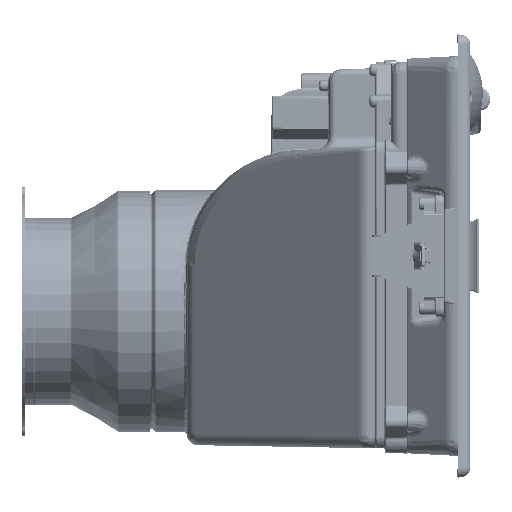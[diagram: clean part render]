
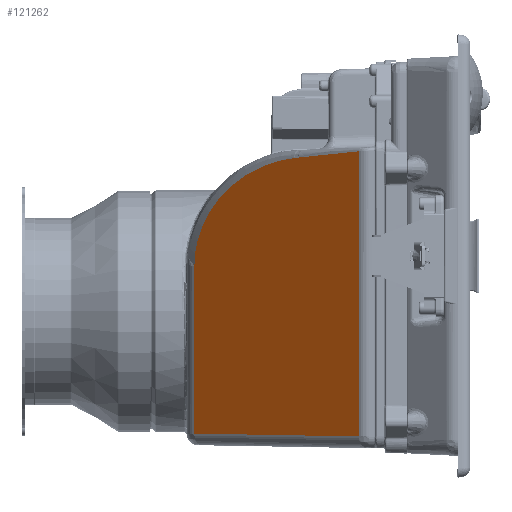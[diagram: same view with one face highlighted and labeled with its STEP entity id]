
A CAD part, left-side view. The second image highlights one B-rep face of the part: STEP entity #121262.
In plain terms, the highlighted planar face has unit normal (-0.737, 0.675, 0) as drawn and (-0.737, -0.676, 0) by its records, which use the part's own axes.
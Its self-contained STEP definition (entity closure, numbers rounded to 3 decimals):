
#68866=DIRECTION('',(0.,0.,-1.));
#68867=VECTOR('',#68866,107.211);
#68868=CARTESIAN_POINT('',(-114.459,-136.133,
113.711));
#68869=LINE('',#68868,#68867);
#68906=CARTESIAN_POINT('',(-114.459,-136.133,6.5));
#68907=CARTESIAN_POINT('',(-114.459,-136.133,
5.693));
#68908=CARTESIAN_POINT('',(-114.486,-136.103,
4.077));
#68909=CARTESIAN_POINT('',(-114.608,-135.97,
1.648));
#68910=CARTESIAN_POINT('',(-114.812,-135.747,
-0.789));
#68911=CARTESIAN_POINT('',(-115.102,-135.431,
-3.234));
#68912=CARTESIAN_POINT('',(-115.479,-135.02,
-5.69));
#68913=CARTESIAN_POINT('',(-115.945,-134.511,
-8.155));
#68914=CARTESIAN_POINT('',(-116.504,-133.9,
-10.632));
#68915=CARTESIAN_POINT('',(-117.16,-133.184,
-13.119));
#68916=CARTESIAN_POINT('',(-117.917,-132.358,
-15.618));
#68917=CARTESIAN_POINT('',(-118.778,-131.419,
-18.126));
#68918=CARTESIAN_POINT('',(-119.748,-130.359,
-20.642));
#68919=CARTESIAN_POINT('',(-120.833,-129.175,
-23.165));
#68920=CARTESIAN_POINT('',(-122.038,-127.86,
-25.69));
#68921=CARTESIAN_POINT('',(-123.368,-126.408,
-28.216));
#68922=CARTESIAN_POINT('',(-124.829,-124.813,
-30.737));
#68923=CARTESIAN_POINT('',(-126.427,-123.069,
-33.247));
#68924=CARTESIAN_POINT('',(-128.167,-121.17,
-35.741));
#68925=CARTESIAN_POINT('',(-130.055,-119.109,
-38.209));
#68926=CARTESIAN_POINT('',(-132.096,-116.881,
-40.642));
#68927=CARTESIAN_POINT('',(-134.296,-114.48,
-43.031));
#68928=CARTESIAN_POINT('',(-136.656,-111.903,
-45.362));
#68929=CARTESIAN_POINT('',(-139.181,-109.147,
-47.623));
#68930=CARTESIAN_POINT('',(-141.872,-106.209,
-49.799));
#68931=CARTESIAN_POINT('',(-144.729,-103.091,
-51.874));
#68932=CARTESIAN_POINT('',(-147.75,-99.794,
-53.83));
#68933=CARTESIAN_POINT('',(-150.931,-96.322,
-55.652));
#68934=CARTESIAN_POINT('',(-154.265,-92.682,
-57.318));
#68935=CARTESIAN_POINT('',(-157.744,-88.885,
-58.813));
#68936=CARTESIAN_POINT('',(-161.354,-84.944,
-60.116));
#68937=CARTESIAN_POINT('',(-165.086,-80.871,
-61.212));
#68938=CARTESIAN_POINT('',(-168.896,-76.712,
-62.078));
#68939=CARTESIAN_POINT('',(-171.467,-73.905,
-62.495));
#68940=CARTESIAN_POINT('',(-172.762,-72.492,
-62.663));
#81017=CARTESIAN_POINT('',(-211.031,-30.72,
115.551));
#81030=DIRECTION('',(0.,0.,1.));
#81031=VECTOR('',#81030,182.607);
#81032=CARTESIAN_POINT('',(-211.031,-30.72,
-67.056));
#81033=LINE('',#81032,#81031);
#81038=DIRECTION('',(-0.675,0.737,0.013));
#81039=VECTOR('',#81038,142.973);
#81040=CARTESIAN_POINT('',(-114.459,-136.133,
113.711));
#81041=LINE('',#81040,#81039);
#81059=CARTESIAN_POINT('',(-172.762,-72.492,
-62.663));
#81060=CARTESIAN_POINT('',(-173.11,-72.112,
-62.709));
#81061=CARTESIAN_POINT('',(-173.81,-71.348,
-62.799));
#81062=CARTESIAN_POINT('',(-174.873,-70.187,
-62.934));
#81063=CARTESIAN_POINT('',(-175.592,-69.402,
-63.026));
#81064=CARTESIAN_POINT('',(-175.954,-69.007,
-63.073));
#81074=CARTESIAN_POINT('',(-175.954,-69.007,
-63.073));
#81075=CARTESIAN_POINT('',(-179.568,-65.062,
-63.539));
#81076=CARTESIAN_POINT('',(-186.441,-57.561,
-64.479));
#81077=CARTESIAN_POINT('',(-195.663,-47.494,
-65.676));
#81078=CARTESIAN_POINT('',(-203.9,-38.503,
-66.562));
#81079=CARTESIAN_POINT('',(-208.76,-33.198,
-66.927));
#81080=CARTESIAN_POINT('',(-211.031,-30.72,
-67.056));
#96510=VERTEX_POINT('',#68906);
#96511=VERTEX_POINT('',#68940);
#96533=VERTEX_POINT('',#81064);
#96535=VERTEX_POINT('',#81080);
#99792=VERTEX_POINT('',#81017);
#99796=CARTESIAN_POINT('',(-114.459,-136.133,
113.711));
#99797=VERTEX_POINT('',#99796);
#121246=CARTESIAN_POINT('',(-110.,-141.,151.25));
#121247=DIRECTION('',(0.737,0.676,0.));
#121248=DIRECTION('',(-0.676,0.737,0.));
#121249=AXIS2_PLACEMENT_3D('',#121246,#121247,#121248);
#121250=PLANE('',#121249);
#121252=ORIENTED_EDGE('',*,*,#121251,.F.);
#121253=ORIENTED_EDGE('',*,*,#102834,.T.);
#121254=ORIENTED_EDGE('',*,*,#102992,.T.);
#121256=ORIENTED_EDGE('',*,*,#121255,.T.);
#121258=ORIENTED_EDGE('',*,*,#121257,.T.);
#121259=ORIENTED_EDGE('',*,*,#121236,.T.);
#121260=EDGE_LOOP('',(#121252,#121253,#121254,#121256,#121258,#121259));
#121261=FACE_OUTER_BOUND('',#121260,.F.);
#121262=ADVANCED_FACE('',(#121261),#121250,.F.);
#68941=B_SPLINE_CURVE_WITH_KNOTS('',3,(#68906,#68907,#68908,#68909,#68910,
#68911,#68912,#68913,#68914,#68915,#68916,#68917,#68918,#68919,#68920,#68921,
#68922,#68923,#68924,#68925,#68926,#68927,#68928,#68929,#68930,#68931,#68932,
#68933,#68934,#68935,#68936,#68937,#68938,#68939,#68940),.UNSPECIFIED.,.F.,.F.,(
4,1,1,1,1,1,1,1,1,1,1,1,1,1,1,1,1,1,1,1,1,1,1,1,1,1,1,1,1,1,1,1,4),(0.,
0.031,0.063,0.094,0.125,0.156,0.188,0.219,0.25,0.281,
0.313,0.344,0.375,0.406,0.438,0.469,0.5,0.531,
0.563,0.594,0.625,0.656,0.688,0.719,0.75,0.781,
0.813,0.844,0.875,0.906,0.938,0.969,1.),.UNSPECIFIED.);
#81065=B_SPLINE_CURVE_WITH_KNOTS('',3,(#81059,#81060,#81061,#81062,#81063,
#81064),.UNSPECIFIED.,.F.,.F.,(4,1,1,4),(0.,0.333,
0.667,1.),.UNSPECIFIED.);
#81081=B_SPLINE_CURVE_WITH_KNOTS('',3,(#81074,#81075,#81076,#81077,#81078,
#81079,#81080),.UNSPECIFIED.,.F.,.F.,(4,1,1,1,4),(0.,0.25,0.5,0.75,
1.),.UNSPECIFIED.);
#102834=EDGE_CURVE('',#99797,#96510,#68869,.T.);
#102992=EDGE_CURVE('',#96510,#96511,#68941,.T.);
#121236=EDGE_CURVE('',#96535,#99792,#81033,.T.);
#121251=EDGE_CURVE('',#99797,#99792,#81041,.T.);
#121255=EDGE_CURVE('',#96511,#96533,#81065,.T.);
#121257=EDGE_CURVE('',#96533,#96535,#81081,.T.);
